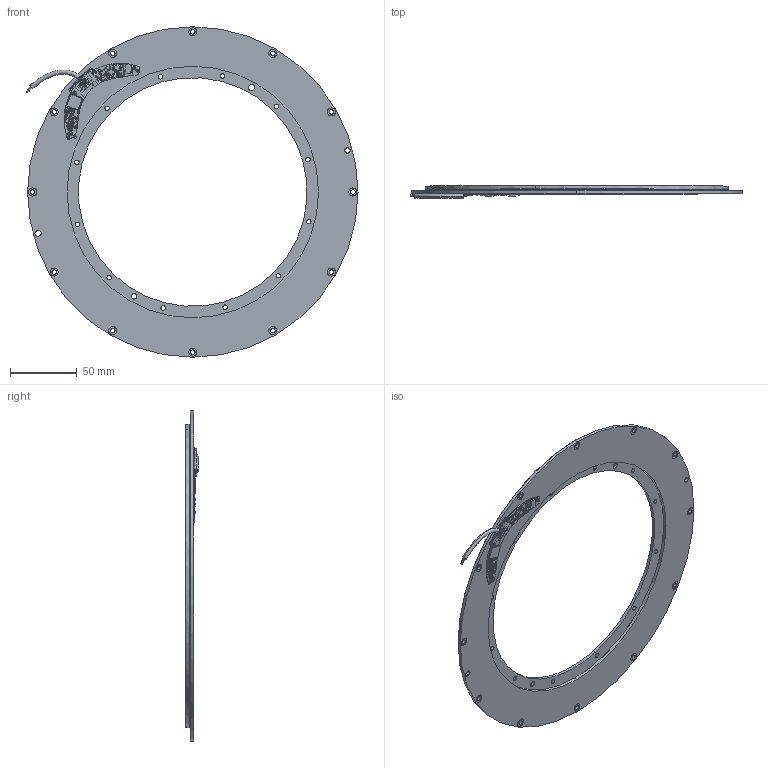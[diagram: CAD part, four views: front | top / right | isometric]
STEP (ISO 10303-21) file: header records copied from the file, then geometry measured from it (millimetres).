
FILE_DESCRIPTION (( 'STEP AP214' ), '1' );
FILE_NAME ('VLP-247.STEP', '2025-03-24T08:11:12', ( '' ), ( '' ), 'SwSTEP 2.0', 'SolidWorks 2022', '' );
FILE_SCHEMA (( 'AUTOMOTIVE_DESIGN' ));
Length unit declared in the file: millimetre
Products named in the file (5): VLP-QR cable; PB-00115-01; VLP-247; PB-00116-01; PB-00456-00
Assembly tree (4 placements, depth 2):
  VLP-247
    PB-00115-01
    PB-00116-01
    PB-00456-00
    VLP-QR cable
Bounding box: 248.84 x 9.23 x 247.65 mm (x, y, z)
Volume: 90852.3 mm3; surface area: 85602.3 mm2
Topology: 109 solids, 109 shells, 3899 faces, 9370 edges, 6268 vertices
Faces by surface type: plane 2432, cylinder 1448, bspline 19
Entity records: 159571 total; most frequent: CARTESIAN_POINT 23607, DIRECTION 20141, ORIENTED_EDGE 18740, EDGE_CURVE 9370, AXIS2_PLACEMENT_3D 6918, VECTOR 6305, LINE 6305, VERTEX_POINT 6268
